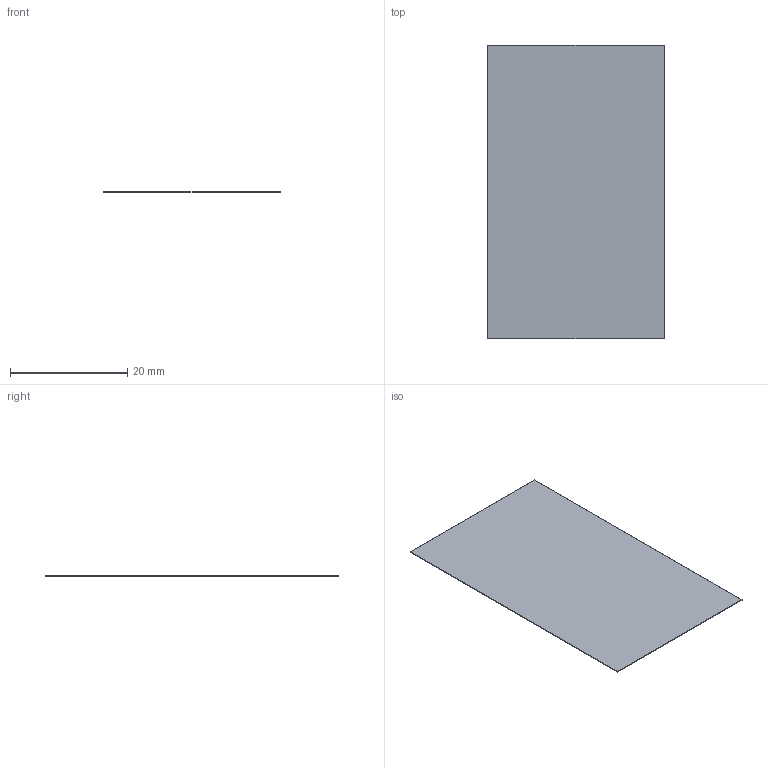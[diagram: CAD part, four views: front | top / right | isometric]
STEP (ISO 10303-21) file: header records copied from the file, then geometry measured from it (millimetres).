
FILE_DESCRIPTION(('FreeCAD Model'),'2;1');
FILE_NAME('Open CASCADE Shape Model','2026-10-16T14:29:36',('FreeCAD'),( 'FreeCAD'),'Open CASCADE STEP processor 7.8','FreeCAD','Unknown');
FILE_SCHEMA(('AUTOMOTIVE_DESIGN { 1 0 10303 214 1 1 1 1 }'));
Length unit declared in the file: millimetre
Products named in the file (1): Open CASCADE STEP translator 7.8 2
Bounding box: 30 x 50 x 0.12 mm (x, y, z)
Volume: 187.5 mm3; surface area: 6020 mm2
Topology: 2 solids, 2 shells, 12 faces, 24 edges, 16 vertices
Faces by surface type: plane 12
Entity records: 316 total; most frequent: CARTESIAN_POINT 53, DIRECTION 50, ORIENTED_EDGE 48, EDGE_CURVE 24, LINE 24, VECTOR 24, VERTEX_POINT 16, AXIS2_PLACEMENT_3D 13
